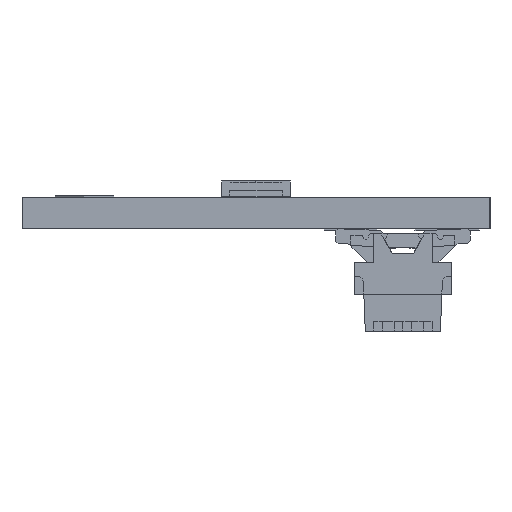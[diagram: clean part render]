
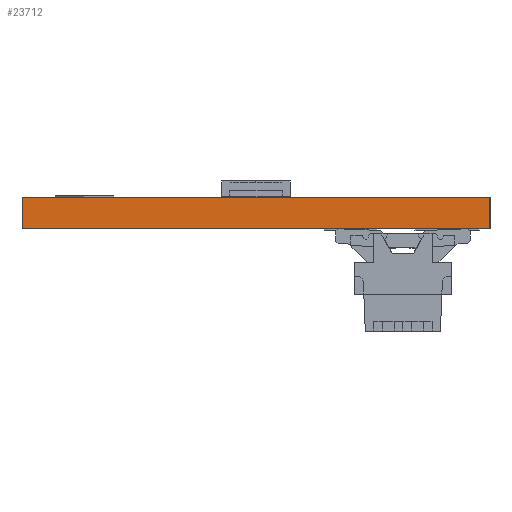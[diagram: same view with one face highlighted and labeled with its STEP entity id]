
A CAD part, left-side view. The second image highlights one B-rep face of the part: STEP entity #23712.
In plain terms, the highlighted planar face has unit normal (-1, 0, 0).
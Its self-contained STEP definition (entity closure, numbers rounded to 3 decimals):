
#2964 = CARTESIAN_POINT ( 'NONE',  ( -23.51, 0., 1.6 ) ) ;
#3691 = EDGE_LOOP ( 'NONE', ( #26666, #17236, #29686, #19077 ) ) ;
#5223 = VERTEX_POINT ( 'NONE', #2964 ) ;
#6005 = DIRECTION ( 'NONE',  ( 0., 0., 1. ) ) ;
#6572 = EDGE_CURVE ( 'NONE', #24786, #28770, #31093, .T. ) ;
#7207 = LINE ( 'NONE', #31251, #20875 ) ;
#10002 = VECTOR ( 'NONE', #6005, 1000. ) ;
#10735 = DIRECTION ( 'NONE',  ( 0., 0., -1. ) ) ;
#11612 = DIRECTION ( 'NONE',  ( 0., -1., 0. ) ) ;
#11785 = CARTESIAN_POINT ( 'NONE',  ( -23.51, 24., 1.6 ) ) ;
#11819 = AXIS2_PLACEMENT_3D ( 'NONE', #34216, #26215, #28824 ) ;
#13838 = EDGE_CURVE ( 'NONE', #28770, #26651, #28255, .T. ) ;
#14734 = CARTESIAN_POINT ( 'NONE',  ( -23.51, 24., 0. ) ) ;
#14941 = EDGE_CURVE ( 'NONE', #26651, #5223, #7207, .T. ) ;
#16277 = VECTOR ( 'NONE', #23677, 1000. ) ;
#17236 = ORIENTED_EDGE ( 'NONE', *, *, #13838, .F. ) ;
#18136 = CARTESIAN_POINT ( 'NONE',  ( -23.51, 24., 0. ) ) ;
#19077 = ORIENTED_EDGE ( 'NONE', *, *, #29977, .F. ) ;
#20248 = VECTOR ( 'NONE', #10735, 1000. ) ;
#20875 = VECTOR ( 'NONE', #11612, 1000. ) ;
#20970 = FACE_OUTER_BOUND ( 'NONE', #3691, .T. ) ;
#23677 = DIRECTION ( 'NONE',  ( 0., 1., 0. ) ) ;
#23712 = ADVANCED_FACE ( 'NONE', ( #20970 ), #31523, .T. ) ;
#24516 = CARTESIAN_POINT ( 'NONE',  ( -23.51, 0., 0. ) ) ;
#24786 = VERTEX_POINT ( 'NONE', #24516 ) ;
#26215 = DIRECTION ( 'NONE',  ( -1., 0., 0. ) ) ;
#26366 = LINE ( 'NONE', #26690, #20248 ) ;
#26651 = VERTEX_POINT ( 'NONE', #30527 ) ;
#26666 = ORIENTED_EDGE ( 'NONE', *, *, #14941, .F. ) ;
#26690 = CARTESIAN_POINT ( 'NONE',  ( -23.51, 0., 1.6 ) ) ;
#28255 = LINE ( 'NONE', #11785, #10002 ) ;
#28770 = VERTEX_POINT ( 'NONE', #14734 ) ;
#28824 = DIRECTION ( 'NONE',  ( 0., 0., -1. ) ) ;
#29686 = ORIENTED_EDGE ( 'NONE', *, *, #6572, .F. ) ;
#29977 = EDGE_CURVE ( 'NONE', #5223, #24786, #26366, .T. ) ;
#30527 = CARTESIAN_POINT ( 'NONE',  ( -23.51, 24., 1.6 ) ) ;
#31093 = LINE ( 'NONE', #18136, #16277 ) ;
#31251 = CARTESIAN_POINT ( 'NONE',  ( -23.51, 24., 1.6 ) ) ;
#31523 = PLANE ( 'NONE',  #11819 ) ;
#34216 = CARTESIAN_POINT ( 'NONE',  ( -23.51, 0., 0. ) ) ;
